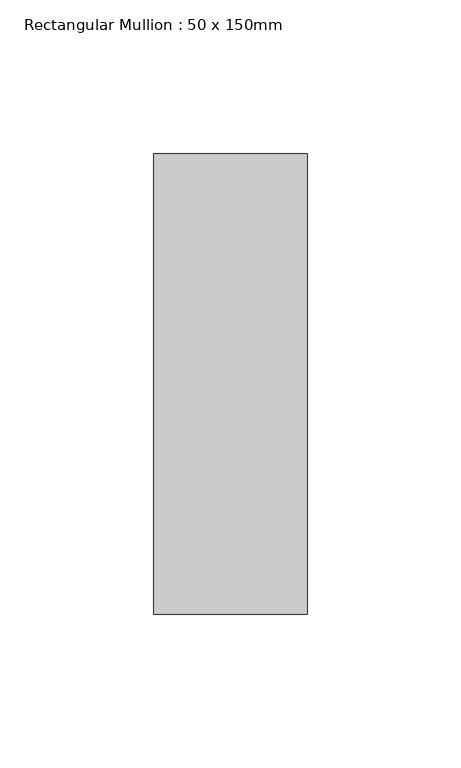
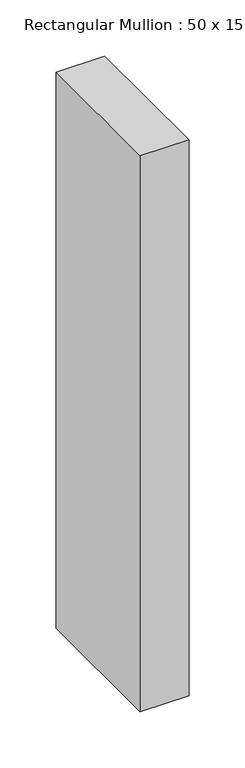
"""IFC4 building model written with IfcOpenShell, lengths in millimetres: member geometry, Rectangular Mullion : 50 x 150mm."""

import ifcopenshell
import ifcopenshell.guid

model = None  # the IFC model being written
_history = None  # IfcOwnerHistory: only IFC2X3 demands one
_inside = {}  # id of a spatial element -> (the spatial element, [elements in it])
_under = {}  # id of a project, library or spatial element -> (it, [spatial elements below it])
_declared = {}  # id of a project -> (the project, [libraries it declares])
_typed = {}  # id of a type object -> (the type object, [elements of that type])
_made_of = {}  # id of a material, layer set ... -> (it, [elements and type objects made of it])


def new_model(schema):
    """Start an empty IFC model of exactly this schema.

    Asked for "IFC4X3", IfcOpenShell would pick the latest addendum, in which some entities
    have other attributes; the version numbers below select the first issue.
    IFC2X3 requires an IfcOwnerHistory on every rooted entity: one is made here for all.
    """
    global model, _history
    if schema == "IFC4X3":
        model = ifcopenshell.file(schema_version=(4, 3, 0, 0))
    else:
        model = ifcopenshell.file(schema=schema)
    _inside.clear()
    _under.clear()
    _declared.clear()
    _typed.clear()
    _made_of.clear()
    _history = None
    if model.schema == "IFC2X3":
        org = make("IfcOrganization", Name="unknown")
        user = make(
            "IfcPersonAndOrganization",
            ThePerson=make("IfcPerson", FamilyName="unknown"),
            TheOrganization=org,
        )
        app = make(
            "IfcApplication",
            ApplicationDeveloper=org,
            Version="unknown",
            ApplicationFullName="unknown",
            ApplicationIdentifier="unknown",
        )
        _history = make(
            "IfcOwnerHistory",
            OwningUser=user,
            OwningApplication=app,
            ChangeAction="ADDED",
            CreationDate=0,
        )
    return model


def make(cls, **values):
    """One entity of the class cls with the attributes given. An attribute that is None is left unset."""
    return model.create_entity(
        cls, **{name: value for name, value in values.items() if value is not None}
    )


def rooted(cls, **values):
    """An entity with a GlobalId (a new one), such as an element, a storey or a relation."""
    return make(cls, GlobalId=ifcopenshell.guid.new(), OwnerHistory=_history, **values)


def si_unit(unit_type, name, prefix=None):
    """IfcSIUnit, for example si_unit("LENGTHUNIT", "METRE", prefix="MILLI")."""
    return make("IfcSIUnit", UnitType=unit_type, Prefix=prefix, Name=name)


def assignment(units):
    """IfcUnitAssignment: the units of a project."""
    return None if units is None else make("IfcUnitAssignment", Units=units)


def point(xyz):
    """IfcCartesianPoint."""
    return None if xyz is None else make("IfcCartesianPoint", Coordinates=xyz)


def direction(xyz):
    """IfcDirection."""
    return None if xyz is None else make("IfcDirection", DirectionRatios=xyz)


def frame(location, z_axis=None, x_axis=None):
    """IfcAxis2Placement3D, a coordinate frame: its origin and axes. An axis left out is left unset."""
    return make(
        "IfcAxis2Placement3D",
        Location=point(location),
        Axis=direction(z_axis),
        RefDirection=direction(x_axis),
    )


def origin():
    """The frame at (0, 0, 0) with its axes left unset."""
    return frame((0.0, 0.0, 0.0))


def place(relative_to, where):
    """IfcLocalPlacement: puts the frame where relative to a parent placement (None: the world)."""
    return make(
        "IfcLocalPlacement", PlacementRelTo=relative_to, RelativePlacement=where
    )


def context(
    kind, dimensions, precision=None, world=None, true_north=None, identifier=None
):
    """IfcGeometricRepresentationContext, for example the 3D "Model" context."""
    return make(
        "IfcGeometricRepresentationContext",
        ContextIdentifier=identifier,
        ContextType=kind,
        CoordinateSpaceDimension=dimensions,
        Precision=precision,
        WorldCoordinateSystem=world,
        TrueNorth=true_north,
    )


def project(units=None, contexts=None):
    """IfcProject with its units and contexts."""
    return rooted(
        "IfcProject",
        Name="project",
        RepresentationContexts=contexts,
        UnitsInContext=assignment(units),
    )


def spatial(cls, under=None, at=None, **own):
    """A site, building, storey or space (cls), placed at a placement, below another one or the project."""
    s = rooted(cls, ObjectPlacement=at, **own)
    if under is not None:
        _under.setdefault(under.id(), (under, []))[1].append(s)
    return s


def polyline(points):
    """IfcPolyline through the points."""
    return make("IfcPolyline", Points=[point(p) for p in points])


def outline(outer, holes=None, kind="AREA"):
    """IfcArbitraryClosedProfileDef: a profile drawn as a closed curve; with holes, ...WithVoids."""
    if holes is None:
        return make("IfcArbitraryClosedProfileDef", ProfileType=kind, OuterCurve=outer)
    return make(
        "IfcArbitraryProfileDefWithVoids",
        ProfileType=kind,
        OuterCurve=outer,
        InnerCurves=holes,
    )


def extrude(swept, where, along, depth):
    """IfcExtrudedAreaSolid: the profile swept, set in the frame where, extruded along a direction by depth."""
    return make(
        "IfcExtrudedAreaSolid",
        SweptArea=swept,
        Position=where,
        ExtrudedDirection=direction(along),
        Depth=depth,
    )


def shape(context_of_items, identifier, shape_type, items):
    """IfcShapeRepresentation: the items that make up one representation, for example the "Body"."""
    return make(
        "IfcShapeRepresentation",
        ContextOfItems=context_of_items,
        RepresentationIdentifier=identifier,
        RepresentationType=shape_type,
        Items=items,
    )


def source(mapping_origin, context_of_items, identifier, shape_type, items):
    """IfcRepresentationMap: a shape defined once, which mapped items show again and again."""
    return make(
        "IfcRepresentationMap",
        MappingOrigin=mapping_origin,
        MappedRepresentation=shape(context_of_items, identifier, shape_type, items),
    )


def transform(
    local_origin,
    x_axis=None,
    y_axis=None,
    z_axis=None,
    scale=None,
    scale2=None,
    scale3=None,
    uniform=True,
):
    """IfcCartesianTransformationOperator3D, or its non-uniform kind. x_axis, y_axis, z_axis: its Axis1, 2, 3."""
    if uniform:
        return make(
            "IfcCartesianTransformationOperator3D",
            Axis1=direction(x_axis),
            Axis2=direction(y_axis),
            LocalOrigin=point(local_origin),
            Scale=scale,
            Axis3=direction(z_axis),
        )
    return make(
        "IfcCartesianTransformationOperator3DnonUniform",
        Axis1=direction(x_axis),
        Axis2=direction(y_axis),
        LocalOrigin=point(local_origin),
        Scale=scale,
        Axis3=direction(z_axis),
        Scale2=scale2,
        Scale3=scale3,
    )


def mapped(mapping_source, mapping_target):
    """IfcMappedItem: shows the shape of a source again, moved by a transform."""
    return make(
        "IfcMappedItem", MappingSource=mapping_source, MappingTarget=mapping_target
    )


def made_of(thing, what):
    """Note that an element or type object is made of a material, layer set ...; save() writes the relation."""
    if what is not None:
        _made_of.setdefault(what.id(), (what, []))[1].append(thing)
    return thing


def element(
    cls,
    number,
    at=None,
    inside=None,
    cuts=None,
    type_object=None,
    material=None,
    context=None,
    identifier="Body",
    shape_type=None,
    held_by="IfcProductDefinitionShape",
    body=None,
    shapes=None,
    **own,
):
    """One element of the class cls, such as IfcWall. Its Tag is "e" and its number.

    at: its placement. inside: the storey or other place that contains it. cuts: it is an
    opening in that element (IfcRelVoidsElement). A single representation is given by context,
    identifier, shape_type and body (its items); several are given by shapes. held_by: the class
    of the entity that holds the representations. save() writes the other relations.
    """
    e = rooted(cls, Tag="e%d" % number, ObjectPlacement=at, **own)
    if body is not None:
        shapes = [shape(context, identifier, shape_type, body)]
    if shapes is not None:
        e.Representation = make(held_by, Representations=shapes)
    if inside is not None:
        _inside.setdefault(inside.id(), (inside, []))[1].append(e)
    if cuts is not None:
        rooted(
            "IfcRelVoidsElement", RelatingBuildingElement=cuts, RelatedOpeningElement=e
        )
    if type_object is not None:
        _typed.setdefault(type_object.id(), (type_object, []))[1].append(e)
    return made_of(e, material)


def aggregate(whole, parts):
    """IfcRelAggregates: a whole, such as a stair, and the parts it consists of."""
    return rooted("IfcRelAggregates", RelatingObject=whole, RelatedObjects=parts)


def save(model, path):
    """Write the relations noted so far, then the file.

    IfcRelAggregates (storeys below a building ...), IfcRelContainedInSpatialStructure (elements
    in a storey), IfcRelDefinesByType, IfcRelAssociatesMaterial and IfcRelDeclares: one each for
    every whole, place, type object, material and project.
    """
    for whole, parts in _under.values():
        aggregate(whole, parts)
    for where, things in _inside.values():
        rooted(
            "IfcRelContainedInSpatialStructure",
            RelatedElements=things,
            RelatingStructure=where,
        )
    for kind, things in _typed.values():
        rooted("IfcRelDefinesByType", RelatedObjects=things, RelatingType=kind)
    for what, things in _made_of.values():
        rooted("IfcRelAssociatesMaterial", RelatedObjects=things, RelatingMaterial=what)
    for by, libraries in _declared.values():
        rooted("IfcRelDeclares", RelatingContext=by, RelatedDefinitions=libraries)
    model.write(path)


def rectangular_mullion_50_x_150mm_7a805af3(model_context):
    return source(origin(), model_context, "Body", "SweptSolid", [
        extrude(outline(polyline([(0.0, 75.0), (0.0, -75.0), (-50.0, -75.0), (-50.0, 75.0), (0.0, 75.0)])), frame((0.0, 0.0, -604.0000002), z_axis=(0.0, 0.0, 1.0), x_axis=(1.0, 0.0, 0.0)), (0.0, 0.0, 1.0), 604.0000002),
    ])


if __name__ == "__main__":
    model = new_model("IFC4")
    model_context = context("Model", 3, world=origin())
    ifc_project = project(units=[si_unit("LENGTHUNIT", "METRE", prefix="MILLI")], contexts=[model_context])
    site = spatial("IfcSite", under=ifc_project)
    building = spatial("IfcBuilding", under=site)
    placement = place(None, origin())
    rectangular_mullion_50_x_150mm_shape = rectangular_mullion_50_x_150mm_7a805af3(model_context)
    element("IfcMember", 1, ObjectType="Rectangular Mullion : 50 x 150mm", at=placement, inside=building, context=model_context, shape_type="MappedRepresentation", body=[
        mapped(rectangular_mullion_50_x_150mm_shape, transform((0.0, 0.0, 0.0), x_axis=(1.0, 0.0, 0.0), y_axis=(0.0, 1.0, 0.0), z_axis=(0.0, 0.0, 1.0))),
    ])
    save(model, "model.ifc")
